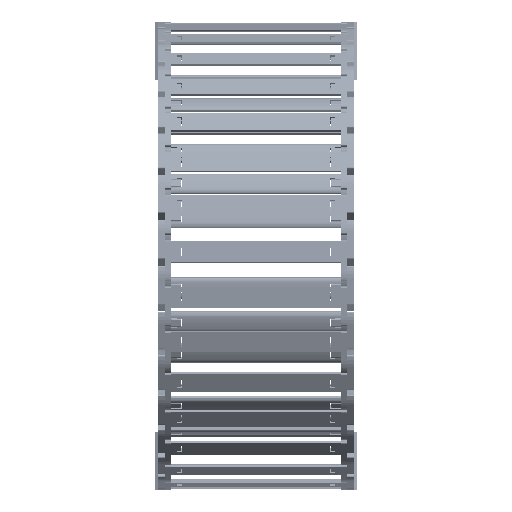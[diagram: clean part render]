
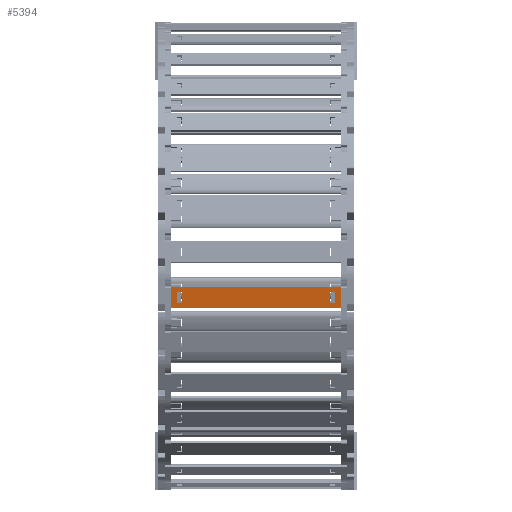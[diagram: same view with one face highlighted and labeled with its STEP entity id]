
A CAD part, left-side view. The second image highlights one B-rep face of the part: STEP entity #5394.
In plain terms, the highlighted planar face has unit normal (-0.984, 0, -0.177) as drawn and (0, 1, 0) by its records, which use the part's own axes.
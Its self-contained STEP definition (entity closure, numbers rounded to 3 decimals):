
#4814=DIRECTION('',(0.,0.,1.));
#4815=VECTOR('',#4814,15.8);
#4816=CARTESIAN_POINT('',(110.74,1.5,-7.9));
#4817=LINE('',#4816,#4815);
#4818=DIRECTION('',(-1.,0.,0.));
#4819=VECTOR('',#4818,125.5);
#4820=CARTESIAN_POINT('',(110.74,1.5,7.9));
#4821=LINE('',#4820,#4819);
#4822=DIRECTION('',(0.,0.,-1.));
#4823=VECTOR('',#4822,15.8);
#4824=CARTESIAN_POINT('',(-14.76,1.5,7.9));
#4825=LINE('',#4824,#4823);
#4826=DIRECTION('',(1.,0.,0.));
#4827=VECTOR('',#4826,3.648);
#4828=CARTESIAN_POINT('',(103.122,1.5,4.075));
#4829=LINE('',#4828,#4827);
#4830=DIRECTION('',(0.,0.,-1.));
#4831=VECTOR('',#4830,8.15);
#4832=CARTESIAN_POINT('',(106.77,1.5,4.075));
#4833=LINE('',#4832,#4831);
#4834=DIRECTION('',(-1.,0.,0.));
#4835=VECTOR('',#4834,3.648);
#4836=CARTESIAN_POINT('',(106.77,1.5,-4.075));
#4837=LINE('',#4836,#4835);
#4838=DIRECTION('',(0.,0.,-1.));
#4839=VECTOR('',#4838,8.15);
#4840=CARTESIAN_POINT('',(-7.142,1.5,4.075));
#4841=LINE('',#4840,#4839);
#4842=DIRECTION('',(-1.,0.,0.));
#4843=VECTOR('',#4842,3.648);
#4844=CARTESIAN_POINT('',(-7.142,1.5,-4.075));
#4845=LINE('',#4844,#4843);
#4846=DIRECTION('',(0.,0.,1.));
#4847=VECTOR('',#4846,8.15);
#4848=CARTESIAN_POINT('',(-10.79,1.5,-4.075));
#4849=LINE('',#4848,#4847);
#4850=DIRECTION('',(1.,0.,0.));
#4851=VECTOR('',#4850,3.648);
#4852=CARTESIAN_POINT('',(-10.79,1.5,4.075));
#4853=LINE('',#4852,#4851);
#4858=DIRECTION('',(-1.,0.,0.));
#4859=VECTOR('',#4858,125.5);
#4860=CARTESIAN_POINT('',(110.74,1.5,-7.9));
#4861=LINE('',#4860,#4859);
#4979=DIRECTION('',(0.,0.,-1.));
#4980=VECTOR('',#4979,8.15);
#4981=CARTESIAN_POINT('',(103.122,1.5,4.075));
#4982=LINE('',#4981,#4980);
#5164=CARTESIAN_POINT('',(106.77,1.5,4.075));
#5165=VERTEX_POINT('',#5164);
#5166=CARTESIAN_POINT('',(103.122,1.5,4.075));
#5167=VERTEX_POINT('',#5166);
#5208=CARTESIAN_POINT('',(103.122,1.5,-4.075));
#5209=VERTEX_POINT('',#5208);
#5210=CARTESIAN_POINT('',(106.77,1.5,-4.075));
#5211=VERTEX_POINT('',#5210);
#5212=CARTESIAN_POINT('',(110.74,1.5,7.9));
#5214=VERTEX_POINT('',#5212);
#5216=CARTESIAN_POINT('',(110.74,1.5,-7.9));
#5217=VERTEX_POINT('',#5216);
#5240=CARTESIAN_POINT('',(-7.142,1.5,4.075));
#5241=CARTESIAN_POINT('',(-7.142,1.5,-4.075));
#5242=VERTEX_POINT('',#5240);
#5243=VERTEX_POINT('',#5241);
#5244=CARTESIAN_POINT('',(-10.79,1.5,-4.075));
#5245=VERTEX_POINT('',#5244);
#5246=CARTESIAN_POINT('',(-10.79,1.5,4.075));
#5247=VERTEX_POINT('',#5246);
#5248=CARTESIAN_POINT('',(-14.76,1.5,7.9));
#5249=VERTEX_POINT('',#5248);
#5252=CARTESIAN_POINT('',(-14.76,1.5,-7.9));
#5253=VERTEX_POINT('',#5252);
#5363=CARTESIAN_POINT('',(142.48,1.5,10.061));
#5364=DIRECTION('',(0.,-1.,0.));
#5365=DIRECTION('',(0.,0.,-1.));
#5366=AXIS2_PLACEMENT_3D('',#5363,#5364,#5365);
#5367=PLANE('',#5366);
#5368=ORIENTED_EDGE('',*,*,#5302,.T.);
#5369=ORIENTED_EDGE('',*,*,#5328,.T.);
#5370=ORIENTED_EDGE('',*,*,#5341,.T.);
#5372=ORIENTED_EDGE('',*,*,#5371,.F.);
#5373=EDGE_LOOP('',(#5368,#5369,#5370,#5372));
#5374=FACE_OUTER_BOUND('',#5373,.F.);
#5376=ORIENTED_EDGE('',*,*,#5375,.F.);
#5377=ORIENTED_EDGE('',*,*,#5265,.T.);
#5379=ORIENTED_EDGE('',*,*,#5378,.T.);
#5381=ORIENTED_EDGE('',*,*,#5380,.T.);
#5382=EDGE_LOOP('',(#5376,#5377,#5379,#5381));
#5383=FACE_BOUND('',#5382,.F.);
#5385=ORIENTED_EDGE('',*,*,#5384,.T.);
#5387=ORIENTED_EDGE('',*,*,#5386,.T.);
#5389=ORIENTED_EDGE('',*,*,#5388,.T.);
#5391=ORIENTED_EDGE('',*,*,#5390,.T.);
#5392=EDGE_LOOP('',(#5385,#5387,#5389,#5391));
#5393=FACE_BOUND('',#5392,.F.);
#5394=ADVANCED_FACE('',(#5374,#5383,#5393),#5367,.F.);
#5265=EDGE_CURVE('',#5167,#5165,#4829,.T.);
#5302=EDGE_CURVE('',#5217,#5214,#4817,.T.);
#5328=EDGE_CURVE('',#5214,#5249,#4821,.T.);
#5341=EDGE_CURVE('',#5249,#5253,#4825,.T.);
#5371=EDGE_CURVE('',#5217,#5253,#4861,.T.);
#5375=EDGE_CURVE('',#5167,#5209,#4982,.T.);
#5378=EDGE_CURVE('',#5165,#5211,#4833,.T.);
#5380=EDGE_CURVE('',#5211,#5209,#4837,.T.);
#5384=EDGE_CURVE('',#5242,#5243,#4841,.T.);
#5386=EDGE_CURVE('',#5243,#5245,#4845,.T.);
#5388=EDGE_CURVE('',#5245,#5247,#4849,.T.);
#5390=EDGE_CURVE('',#5247,#5242,#4853,.T.);
